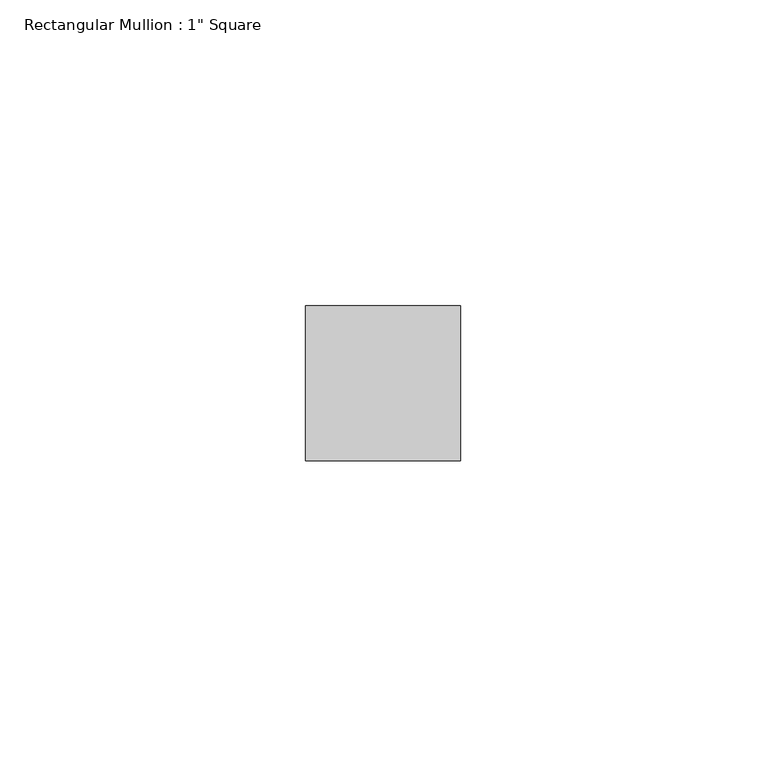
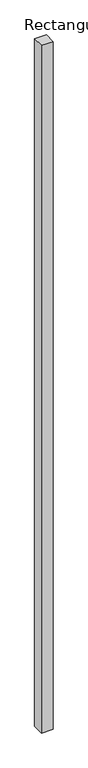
"""IFC4 building model written with IfcOpenShell, lengths in millimetres: member geometry."""

from ifc_helpers import new_model, si_unit, frame, origin, place, context, project, spatial, polyline, outline, extrude, source, transform, mapped, element, save


def member_bc92414a(model_context):
    return source(origin(), model_context, "Body", "SweptSolid", [
        extrude(outline(polyline([(12.7, 12.7), (12.7, -12.7), (-12.7, -12.7), (-12.7, 12.7), (12.7, 12.7)])), frame((0.0, 0.0, -1590.7775636), z_axis=(0.0, 0.0, 1.0), x_axis=(1.0, 0.0, 0.0)), (0.0, 0.0, 1.0), 1590.7775636),
    ])


if __name__ == "__main__":
    model = new_model("IFC4")
    model_context = context("Model", 3, world=origin())
    ifc_project = project(units=[si_unit("LENGTHUNIT", "METRE", prefix="MILLI")], contexts=[model_context])
    site = spatial("IfcSite", under=ifc_project)
    building = spatial("IfcBuilding", under=site)
    placement = place(None, origin())
    member_shape = member_bc92414a(model_context)
    element("IfcMember", 1, ObjectType="Rectangular Mullion : 1\" Square", at=placement, inside=building, context=model_context, shape_type="MappedRepresentation", body=[
        mapped(member_shape, transform((0.0, 0.0, 0.0), x_axis=(1.0, 0.0, 0.0), y_axis=(0.0, 1.0, 0.0), z_axis=(0.0, 0.0, 1.0))),
    ])
    save(model, "model.ifc")
